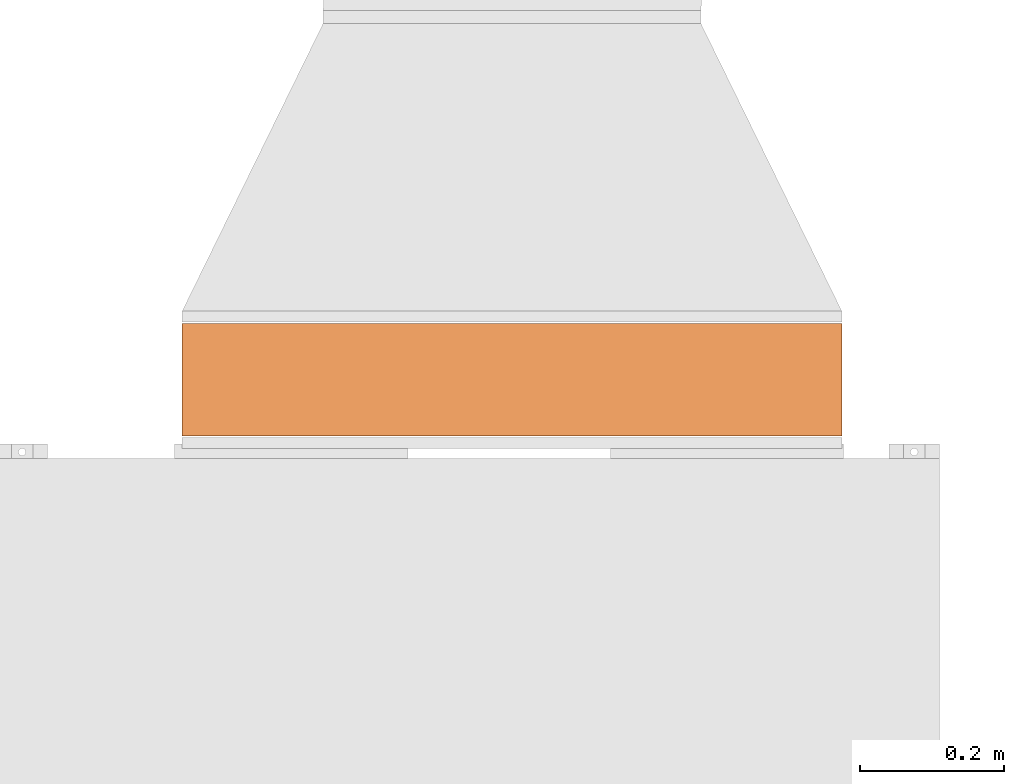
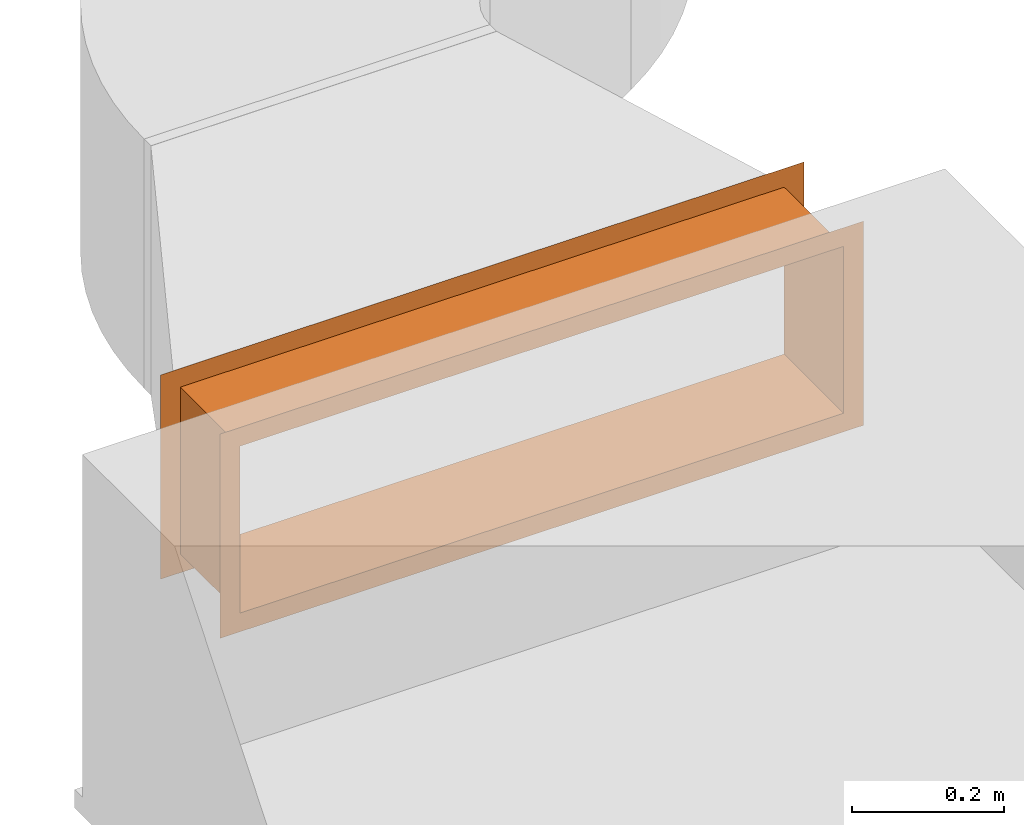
# One storey, part 60 of 60: 1 proxy.
"""IFC2X3 building model written with IfcOpenShell, lengths in millimetres."""

from ifc_helpers import new_model, entity, si_unit, converted_unit, derived_unit, direction, frame, origin, place, context, subcontext, project, spatial, face_set, surface_model, source, transform, mapped, material, type_object, type_shapes, element, save


model = new_model("IFC2X3")

# Units and contexts
model_context = context("Model", 3, precision=0.01, world=origin(), true_north=direction((6.123233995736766e-17, 1.0)))
body_context = subcontext(model_context, "Body", "Model", "MODEL_VIEW")
ifc_project = project(units=[si_unit("LENGTHUNIT", "METRE", prefix="MILLI"), converted_unit("PLANEANGLEUNIT", "DEGREE", entity("IfcPlaneAngleMeasure", 0.017453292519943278), si_unit("PLANEANGLEUNIT", "RADIAN"), dimensions=[0, 0, 0, 0, 0, 0, 0]), si_unit("AREAUNIT", "SQUARE_METRE"), derived_unit("THERMALTRANSMITTANCEUNIT", [(si_unit("MASSUNIT", "GRAM", prefix="KILO"), 1), (si_unit("THERMODYNAMICTEMPERATUREUNIT", "KELVIN"), -1), (si_unit("TIMEUNIT", "SECOND"), -3)])], contexts=[model_context])

# Site, building, storey
site_placement = place(None, origin())
site = spatial("IfcSite", under=ifc_project, at=site_placement, Name="Default", CompositionType="ELEMENT")
building_placement = place(site_placement, origin())
building = spatial("IfcBuilding", under=site, at=building_placement, Name="Praça Pedro II, 1301 - Centro (Sul), Teresina - PI, 64001-100", CompositionType="ELEMENT")
storey_placement = place(building_placement, frame((0.0, 0.0, 6040.0)))
storey = spatial("IfcBuildingStorey", under=building, at=storey_placement, Name="2PAV", CompositionType="ELEMENT", Elevation=6040.0)

# Proxy
ifc_material = material(Name="<Unnamed>")
building_element_proxy_type = type_object("IfcBuildingElementProxyType", Name="Canvas Connection:Canvas Connection", PredefinedType="NOTDEFINED", material=ifc_material)
shared_shape = source(origin(), body_context, "Body", "SurfaceModel", [
    surface_model("IfcFaceBasedSurfaceModel", [(0.0, -458.4999933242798, 133.9999966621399), (156.57639842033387, -458.4999933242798, 133.9999966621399), (156.57639842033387, 458.4999933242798, 133.9999966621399), (0.0, 458.4999933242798, 133.9999966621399), (156.57639842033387, 458.4999933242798, -133.9999966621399), (0.0, 458.4999933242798, -133.9999966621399), (156.57639842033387, -458.4999933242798, -133.9999966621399), (0.0, -458.4999933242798, -133.9999966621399), (0.0010000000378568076, -488.5000153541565, -164.00000052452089), (0.0010000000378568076, -488.5000153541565, 164.00000052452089), (0.0010000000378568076, 488.5000153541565, 164.00000052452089), (0.0010000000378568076, 488.5000153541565, -164.00000052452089), (30.000998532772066, 458.54584808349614, -134.01339519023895), (30.000998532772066, 458.54584808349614, 134.01339519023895), (30.000998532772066, -458.54584808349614, 134.01339519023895), (30.000998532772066, -458.54584808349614, -134.01339519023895), (156.57539920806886, 488.5000153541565, -164.00000052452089), (156.57539920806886, 488.5000153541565, 164.00000052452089), (156.57539920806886, -488.5000153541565, 164.00000052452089), (156.57539920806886, -488.5000153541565, -164.00000052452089), (126.57539534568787, -458.54584808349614, -134.01339519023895), (126.57539534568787, -458.54584808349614, 134.01339519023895), (126.57539534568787, 458.54584808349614, 134.01339519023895), (126.57539534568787, 458.54584808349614, -134.01339519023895)], [face_set([[[0, 1, 2]], [[2, 3, 0]], [[3, 2, 4]], [[4, 5, 3]], [[5, 4, 6]], [[6, 7, 5]], [[7, 6, 1]], [[1, 0, 7]], [[8, 7, 0]], [[0, 9, 8]], [[9, 0, 3]], [[3, 10, 9]], [[10, 3, 5]], [[5, 11, 10]], [[11, 5, 7]], [[7, 8, 11]], [[12, 5, 3]], [[3, 13, 12]], [[13, 3, 0]], [[0, 14, 13]], [[14, 0, 7]], [[7, 15, 14]], [[15, 7, 5]], [[5, 12, 15]], [[16, 4, 2]], [[2, 17, 16]], [[17, 2, 1]], [[1, 18, 17]], [[18, 1, 6]], [[6, 19, 18]], [[19, 6, 4]], [[4, 16, 19]], [[20, 6, 1]], [[1, 21, 20]], [[21, 1, 2]], [[2, 22, 21]], [[22, 2, 4]], [[4, 23, 22]], [[23, 4, 6]], [[6, 20, 23]]])]),
])
type_shapes(building_element_proxy_type, [shared_shape])
proxy_placement = place(storey_placement, frame((38893.57548635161, -61756.89369241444, 3450.0), z_axis=(0.0, 0.0, -1.0), x_axis=(0.0, 1.0, 0.0)))
element("IfcBuildingElementProxy", 1, at=proxy_placement, inside=storey, type_object=building_element_proxy_type, material=ifc_material, Name="Canvas Connection:Padrão", ObjectType="Canvas Connection:Padrão", context=body_context, shape_type="MappedRepresentation", body=[
    mapped(shared_shape, transform((0.0, 0.0, 0.0), scale=1.0)),
])

save(model, "model.ifc")
